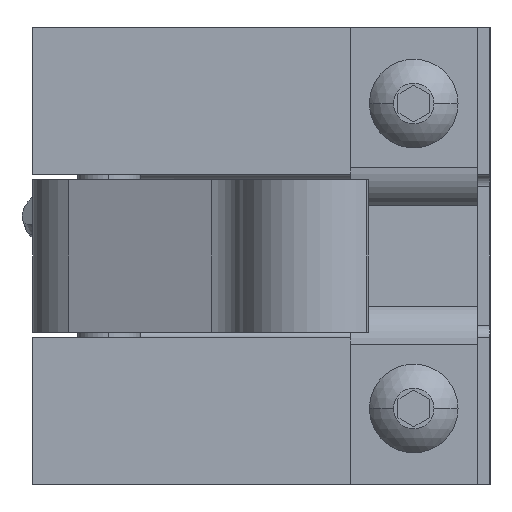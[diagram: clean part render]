
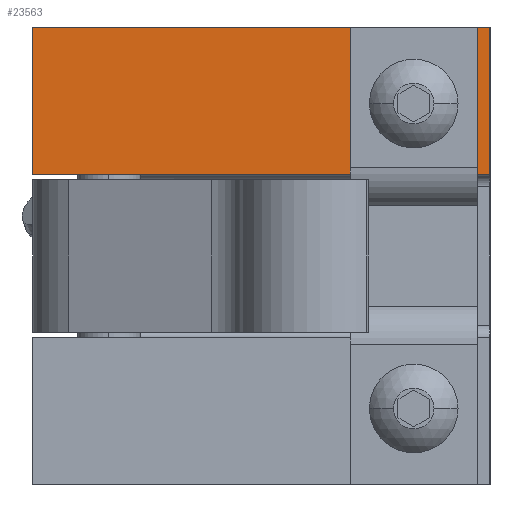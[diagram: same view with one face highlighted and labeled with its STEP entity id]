
A CAD part, left-side view. The second image highlights one B-rep face of the part: STEP entity #23563.
In plain terms, the highlighted planar face has unit normal (-1, 0, 0).
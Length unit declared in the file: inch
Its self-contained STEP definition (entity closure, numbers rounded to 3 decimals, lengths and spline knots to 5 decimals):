
#5969 = DIRECTION ( 'NONE',  ( 0., -1., 0. ) ) ;
#5970 = VECTOR ( 'NONE', #5969, 39.37008 ) ;
#5971 = CARTESIAN_POINT ( 'NONE',  ( -1.6053, -1.22201, 1.18051 ) ) ;
#5972 = LINE ( 'NONE', #5971, #5970 ) ;
#5974 = DIRECTION ( 'NONE',  ( 0., 0., 1. ) ) ;
#5975 = VECTOR ( 'NONE', #5974, 39.37008 ) ;
#5976 = CARTESIAN_POINT ( 'NONE',  ( -1.6053, -1.22201, -1.06949 ) ) ;
#5977 = LINE ( 'NONE', #5976, #5975 ) ;
#7197 = CARTESIAN_POINT ( 'NONE',  ( -1.6053, 1.02799, 0.45551 ) ) ;
#7242 = FACE_OUTER_BOUND ( 'NONE', #23571, .T. ) ;
#7243 = FACE_BOUND ( 'NONE', #23564, .T. ) ;
#7254 = DIRECTION ( 'NONE',  ( 0., 0., 1. ) ) ;
#7255 = VECTOR ( 'NONE', #7254, 39.37008 ) ;
#7256 = CARTESIAN_POINT ( 'NONE',  ( -1.6053, 1.02799, -1.06949 ) ) ;
#7257 = LINE ( 'NONE', #7256, #7255 ) ;
#7259 = CARTESIAN_POINT ( 'NONE',  ( -1.6053, 1.02799, 1.18051 ) ) ;
#7274 = CARTESIAN_POINT ( 'NONE',  ( -1.6053, -0.84701, 0.68051 ) ) ;
#7275 = CARTESIAN_POINT ( 'NONE',  ( -1.6053, -0.84701, 0.93051 ) ) ;
#7276 = DIRECTION ( 'NONE',  ( 0., 0., 1. ) ) ;
#7277 = DIRECTION ( 'NONE',  ( -1., 0., 0. ) ) ;
#7278 = CARTESIAN_POINT ( 'NONE',  ( -1.6053, -0.84701, 0.80551 ) ) ;
#7279 = AXIS2_PLACEMENT_3D ( 'NONE', #7278, #7277, #7276 ) ;
#7280 = DIRECTION ( 'NONE',  ( 0., 0., 1. ) ) ;
#7281 = DIRECTION ( 'NONE',  ( -1., 0., 0. ) ) ;
#7282 = CARTESIAN_POINT ( 'NONE',  ( -1.6053, -1.22201, -1.06949 ) ) ;
#7283 = AXIS2_PLACEMENT_3D ( 'NONE', #7282, #7281, #7280 ) ;
#7284 = CIRCLE ( 'NONE', #7279, 0.125 ) ;
#7285 = PLANE ( 'NONE',  #7283 ) ;
#7318 = CARTESIAN_POINT ( 'NONE',  ( -1.6053, -1.22201, 1.18051 ) ) ;
#7319 = CARTESIAN_POINT ( 'NONE',  ( -1.6053, -1.22201, 0.45551 ) ) ;
#7320 = DIRECTION ( 'NONE',  ( 0., 1., 0. ) ) ;
#7321 = VECTOR ( 'NONE', #7320, 39.37008 ) ;
#7322 = CARTESIAN_POINT ( 'NONE',  ( -1.6053, -1.22201, 0.45551 ) ) ;
#7323 = LINE ( 'NONE', #7322, #7321 ) ;
#7324 = DIRECTION ( 'NONE',  ( 0., 0., 1. ) ) ;
#7325 = DIRECTION ( 'NONE',  ( -1., 0., 0. ) ) ;
#7326 = CARTESIAN_POINT ( 'NONE',  ( -1.6053, -0.84701, 0.80551 ) ) ;
#7327 = AXIS2_PLACEMENT_3D ( 'NONE', #7326, #7325, #7324 ) ;
#7328 = CIRCLE ( 'NONE', #7327, 0.125 ) ;
#23309 = EDGE_CURVE ( 'NONE', #23574, #23576, #5977, .T. ) ;
#23310 = ORIENTED_EDGE ( 'NONE', *, *, #23311, .F. ) ;
#23311 = EDGE_CURVE ( 'NONE', #23554, #23576, #5972, .T. ) ;
#23312 = ORIENTED_EDGE ( 'NONE', *, *, #23557, .F. ) ;
#23537 = VERTEX_POINT ( 'NONE', #7197 ) ;
#23554 = VERTEX_POINT ( 'NONE', #7259 ) ;
#23557 = EDGE_CURVE ( 'NONE', #23537, #23554, #7257, .T. ) ;
#23563 = ADVANCED_FACE ( 'NONE', ( #7243, #7242 ), #7285, .T. ) ;
#23564 = EDGE_LOOP ( 'NONE', ( #23565, #23569 ) ) ;
#23565 = ORIENTED_EDGE ( 'NONE', *, *, #23566, .F. ) ;
#23566 = EDGE_CURVE ( 'NONE', #23567, #23568, #7284, .T. ) ;
#23567 = VERTEX_POINT ( 'NONE', #7275 ) ;
#23568 = VERTEX_POINT ( 'NONE', #7274 ) ;
#23569 = ORIENTED_EDGE ( 'NONE', *, *, #23570, .F. ) ;
#23570 = EDGE_CURVE ( 'NONE', #23568, #23567, #7328, .T. ) ;
#23571 = EDGE_LOOP ( 'NONE', ( #23572, #23575, #23310, #23312 ) ) ;
#23572 = ORIENTED_EDGE ( 'NONE', *, *, #23573, .F. ) ;
#23573 = EDGE_CURVE ( 'NONE', #23574, #23537, #7323, .T. ) ;
#23574 = VERTEX_POINT ( 'NONE', #7319 ) ;
#23575 = ORIENTED_EDGE ( 'NONE', *, *, #23309, .T. ) ;
#23576 = VERTEX_POINT ( 'NONE', #7318 ) ;
